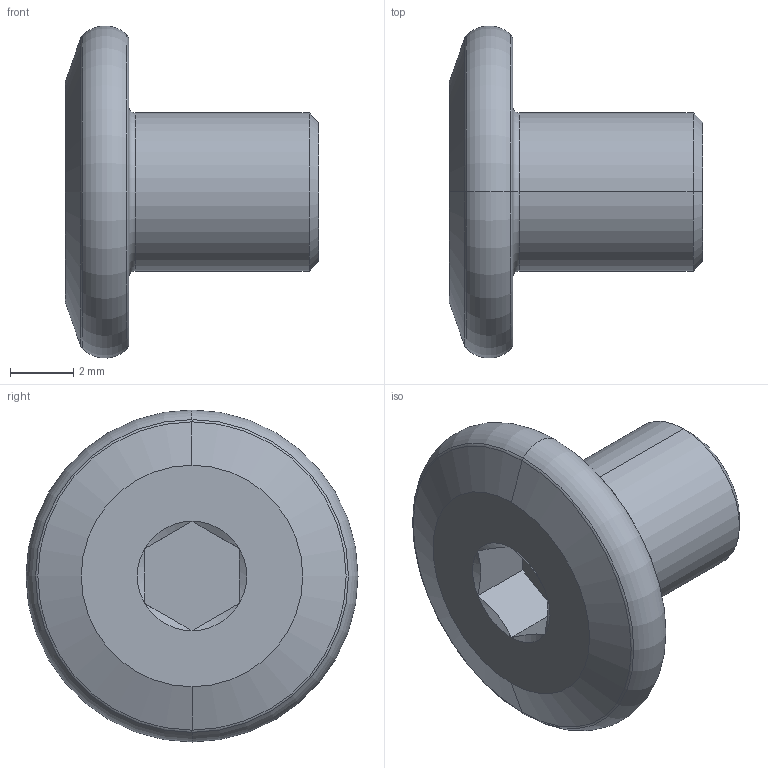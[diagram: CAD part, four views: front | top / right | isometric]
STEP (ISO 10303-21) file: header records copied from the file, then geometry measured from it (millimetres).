
FILE_DESCRIPTION (( 'STEP AP203' ), '1' );
FILE_NAME ('LGD-304D-M5x6.STEP', '2026-08-13T07:15:48', ( '' ), ( '' ), 'SwSTEP 2.0', 'SolidWorks 2020', '' );
FILE_SCHEMA (( 'CONFIG_CONTROL_DESIGN' ));
Length unit declared in the file: millimetre
Products named in the file (1): LGD-304D-M5x6
Bounding box: 8 x 10.5 x 10.5 mm (x, y, z)
Volume: 254.4 mm3; surface area: 318.4 mm2
Topology: 1 solids, 1 shells, 30 faces, 56 edges, 30 vertices
Faces by surface type: cone 10, plane 10, torus 8, cylinder 2
Entity records: 835 total; most frequent: CARTESIAN_POINT 151, DIRECTION 144, ORIENTED_EDGE 112, AXIS2_PLACEMENT_3D 63, EDGE_CURVE 56, CIRCLE 32, EDGE_LOOP 32, VERTEX_POINT 30
